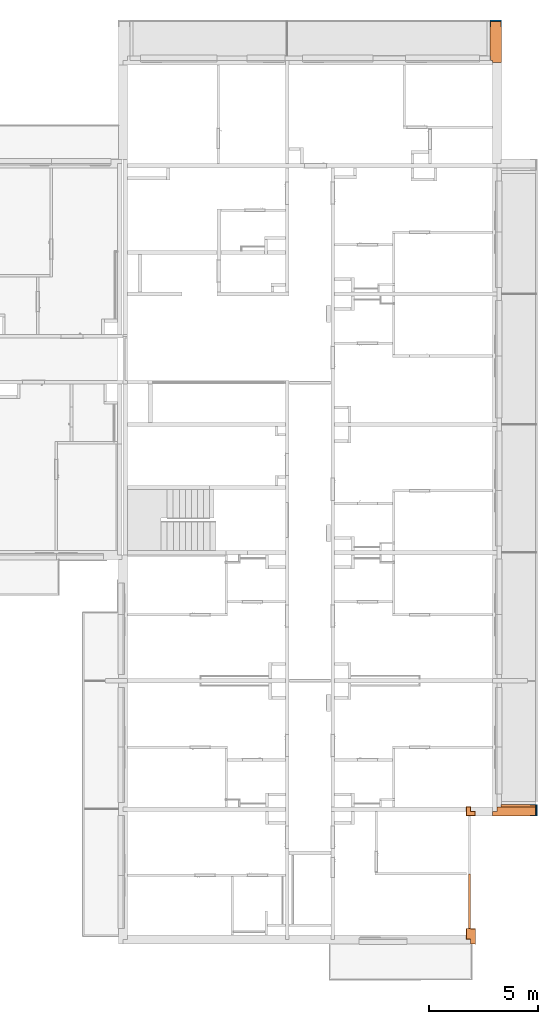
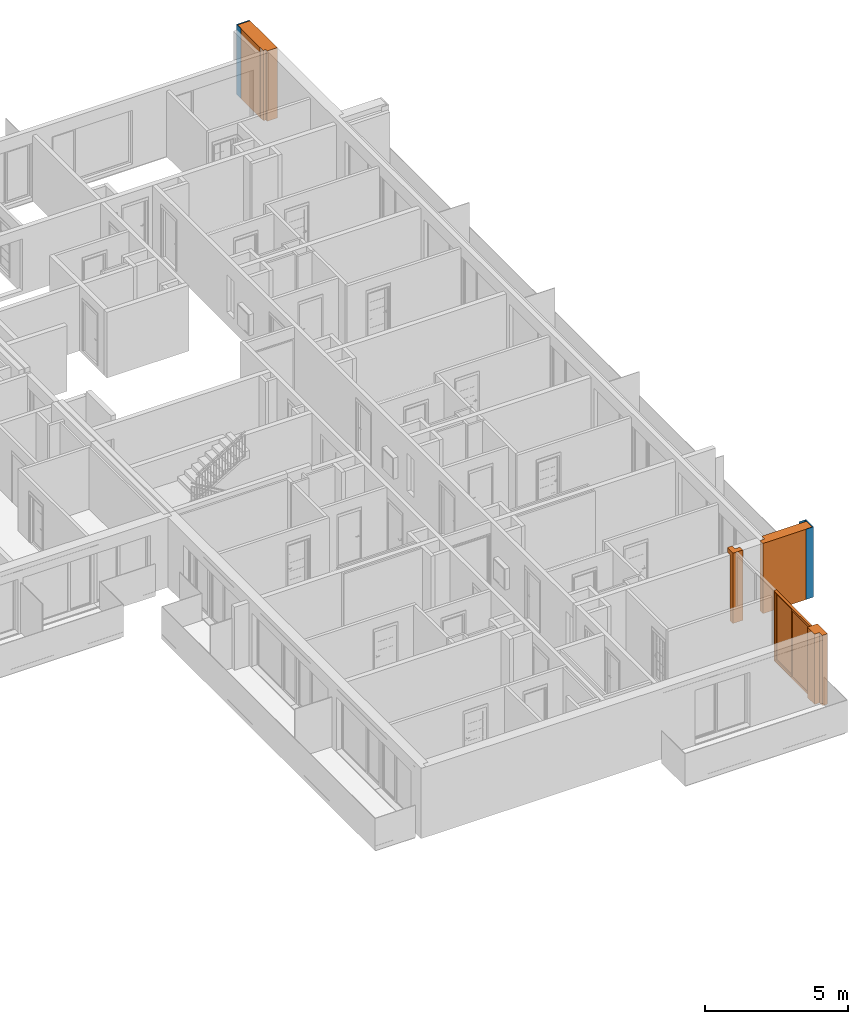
# One storey, part 51 of 66: 4 proxies, 2 walls, 4 openings.
"""IFC2X3 building model written with IfcOpenShell, lengths in millimetres."""

from ifc_helpers import new_model, entity, si_unit, converted_unit, derived_unit, money_unit, direction, frame, origin_with_axes, origin_2d_with_axis, place, context, subcontext, project, spatial, rectangle, extrude, open_shell, faceted_brep, surface_model, source, transform, mapped, material, material_list, type_object, element, fill, save


model = new_model("IFC2X3")

# Units and contexts
model_context = context("Model", 3, precision=0.01, world=origin_with_axes(), true_north=direction((0.34421633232, 0.938890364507)))
body_context = subcontext(model_context, "Body", "Model", "MODEL_VIEW")
ifc_project = project(units=[si_unit("LENGTHUNIT", "METRE", prefix="MILLI"), si_unit("AREAUNIT", "SQUARE_METRE"), si_unit("VOLUMEUNIT", "CUBIC_METRE"), converted_unit("PLANEANGLEUNIT", "DEGREE", entity("IfcPlaneAngleMeasure", 0.0174532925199), si_unit("PLANEANGLEUNIT", "RADIAN"), dimensions=[0, 0, 0, 0, 0, 0, 0]), si_unit("SOLIDANGLEUNIT", "STERADIAN"), money_unit("USD"), converted_unit("TIMEUNIT", "Year", entity("IfcTimeMeasure", 31556926.0), si_unit("TIMEUNIT", "SECOND"), dimensions=[0, 0, 1, 0, 0, 0, 0]), si_unit("MASSUNIT", "GRAM", prefix="KILO"), si_unit("THERMODYNAMICTEMPERATUREUNIT", "DEGREE_CELSIUS"), si_unit("LUMINOUSINTENSITYUNIT", "LUMEN"), si_unit("ENERGYUNIT", "JOULE", prefix="MEGA"), derived_unit("THERMALCONDUCTANCEUNIT", [(si_unit("POWERUNIT", "WATT"), 1), (si_unit("LENGTHUNIT", "METRE"), -1), (si_unit("THERMODYNAMICTEMPERATUREUNIT", "KELVIN"), -1)]), derived_unit("SPECIFICHEATCAPACITYUNIT", [(si_unit("ENERGYUNIT", "JOULE"), 1), (si_unit("MASSUNIT", "GRAM", prefix="KILO"), -1), (si_unit("THERMODYNAMICTEMPERATUREUNIT", "KELVIN"), -1)]), derived_unit("MASSDENSITYUNIT", [(si_unit("MASSUNIT", "GRAM", prefix="KILO"), 1), (si_unit("VOLUMEUNIT", "CUBIC_METRE"), -1)])], contexts=[model_context])

# Site, building, storey
site_placement = place(None, origin_with_axes())
site = spatial("IfcSite", under=ifc_project, at=site_placement, Name="USTRONIE MORSKIE", CompositionType="ELEMENT")
building_placement = place(site_placement, origin_with_axes())
building = spatial("IfcBuilding", under=site, at=building_placement, Name="Budynek", CompositionType="ELEMENT")
storey_placement = place(building_placement, frame((0.0, 0.0, 10000.0), z_axis=(0.0, 0.0, 1.0), x_axis=(1.0, 0.0, 0.0)))
storey = spatial("IfcBuildingStorey", under=building, at=storey_placement, Name="PIĘTRO 3", CompositionType="ELEMENT", Elevation=10000.0)

# Proxies, openings
ifc_material_1 = material(Name="Tynk zewnętrzny")
ifc_material_2 = material(Name="Wełna ELEW")
ifc_material_3 = material(Name="Beton konstrukcyjny B25")
ifc_material_list_1 = material_list([ifc_material_1, ifc_material_2, ifc_material_3])
building_element_proxy_type_1 = type_object("IfcBuildingElementProxyType", Name="20+20 410", PredefinedType="NOTDEFINED")
proxy_1_placement = place(storey_placement, frame((424367.920919, 715101.199036, -160.0), z_axis=(0.0, 0.0, 1.0), x_axis=(0.0, -1.0, 0.0)))
proxy_1 = element("IfcBuildingElementProxy", 1, at=proxy_1_placement, inside=storey, type_object=building_element_proxy_type_1, material=ifc_material_list_1, Name="SZ-01", context=body_context, shape_type="Brep", body=[
    faceted_brep([(300.0, 310.0, 0.0), (300.0, 310.0, 2800.0), (300.0, 310.0, 3000.0), (6210.0, 310.0, 3000.0), (6210.0, 310.0, 0.0), (300.0, 300.0, 2800.0), (300.0, 300.0, 0.0), (300.0, 300.0, 3000.0), (6210.0, 300.0, 3000.0), (6210.0, 300.0, 0.0)], [[[0, 1, 2, 3, 4]], [[5, 1, 0, 6]], [[1, 5, 7, 2]], [[2, 7, 8, 3]], [[4, 3, 8, 9]], [[6, 0, 4, 9]], [[5, 6, 9, 8, 7]]]),
    faceted_brep([(6200.0, 300.0, 0.0), (100.0, 300.0, 0.0), (100.0, 300.0, 3000.0), (6200.0, 300.0, 3000.0), (6200.0, 100.0, 0.0), (100.0, 100.0, 0.0), (100.0, 100.0, 3000.0), (6200.0, 100.0, 3000.0)], [[[0, 1, 2, 3]], [[4, 5, 1, 0]], [[2, 1, 5, 6]], [[3, 2, 6, 7]], [[4, 0, 3, 7]], [[6, 5, 4, 7]]]),
    faceted_brep([(100.0, 100.0, 0.0), (100.0, 100.0, 2800.0), (-100.0, 100.0, 2800.0), (-100.0, 100.0, 3000.0), (6000.0, 100.0, 3000.0), (6000.0, 100.0, 0.0), (100.0, -100.0, 0.0), (100.0, -100.0, 2800.0), (-100.0, -100.0, 2800.0), (-100.0, -100.0, 3000.0), (6000.0, -100.0, 3000.0), (6000.0, -100.0, 0.0)], [[[0, 1, 2, 3, 4, 5]], [[1, 0, 6, 7]], [[8, 2, 1, 7]], [[2, 8, 9, 3]], [[4, 3, 9, 10]], [[5, 4, 10, 11]], [[6, 0, 5, 11]], [[7, 6, 11, 10, 9, 8]]]),
])
opening_1_placement = place(proxy_1_placement, frame((4240.0, 0.0, 0.0), z_axis=(0.0, 0.0, 1.0), x_axis=(1.0, 0.0, 0.0)))
opening_1 = element("IfcOpeningElement", 2, at=opening_1_placement, cuts=proxy_1, Name="Wz.04", context=body_context, shape_type="SweptSolid", body=[
    extrude(rectangle(XDim=2520.0, YDim=3000.0, at=origin_2d_with_axis()), frame((0.0, 0.0, 1500.0), z_axis=(0.0, 1.0, 0.0), x_axis=(1.0, 0.0, 0.0)), (0.0, 0.0, 1.0), 720.0),
    extrude(rectangle(XDim=2520.0, YDim=3000.0, at=origin_2d_with_axis()), frame((0.0, 0.0, 1500.0), z_axis=(0.0, -1.0, 0.0), x_axis=(1.0, 0.0, 0.0)), (0.0, 0.0, 1.0), 510.0),
])
opening_2_placement = place(proxy_1_placement, frame((1640.0, 0.0, 0.0), z_axis=(0.0, 0.0, 1.0), x_axis=(1.0, 0.0, 0.0)))
element("IfcOpeningElement", 3, at=opening_2_placement, cuts=proxy_1, Name="Wz.04", context=body_context, shape_type="SweptSolid", body=[
    extrude(rectangle(XDim=2680.0, YDim=3000.0, at=origin_2d_with_axis()), frame((0.0, 0.0, 1500.0), z_axis=(0.0, -1.0, 0.0), x_axis=(-1.0, 0.0, 0.0)), (0.0, 0.0, -1.0), 720.0),
    extrude(rectangle(XDim=2680.0, YDim=3000.0, at=origin_2d_with_axis()), frame((0.0, 0.0, 1500.0), z_axis=(0.0, 1.0, 0.0), x_axis=(-1.0, 0.0, 0.0)), (0.0, 0.0, -1.0), 510.0),
])
building_element_proxy_type_2 = type_object("IfcBuildingElementProxyType", Name="Okno przesuwne, 2-skrzydłowe 23", PredefinedType="NOTDEFINED")
shared_shape_1 = source(origin_with_axes(), body_context, "Body", "SurfaceModel", [
    faceted_brep([(1210.0, -100.0, 50.0), (1210.0, -100.0, 2950.0), (1210.0, 0.0, 2950.0), (1210.0, 0.0, 50.0), (1260.0, -100.0, 50.0), (1260.0, -100.0, 2950.0), (1260.0, 0.0, 2950.0), (1260.0, 0.0, 50.0)], [[[0, 1, 2, 3]], [[0, 4, 5, 1]], [[1, 5, 6, 2]], [[3, 2, 6, 7]], [[4, 0, 3, 7]], [[5, 4, 7, 6]]]),
    faceted_brep([(-1260.0, -100.0, 50.0), (-1260.0, -100.0, 2950.0), (-1260.0, 0.0, 2950.0), (-1260.0, 0.0, 50.0), (-1210.0, -100.0, 50.0), (-1210.0, -100.0, 2950.0), (-1210.0, 0.0, 2950.0), (-1210.0, 0.0, 50.0)], [[[0, 1, 2, 3]], [[0, 4, 5, 1]], [[1, 5, 6, 2]], [[3, 2, 6, 7]], [[4, 0, 3, 7]], [[5, 4, 7, 6]]]),
    faceted_brep([(-1260.0, -100.0, 50.0), (-1210.0, -100.0, 50.0), (-1210.0, 0.0, 50.0), (-1260.0, 0.0, 50.0), (-1260.0, -100.0, 0.0), (1260.0, -100.0, 0.0), (1260.0, -100.0, 50.0), (1210.0, -100.0, 50.0), (1210.0, 0.0, 50.0), (1260.0, 0.0, 50.0), (1260.0, 0.0, 0.0), (-1260.0, 0.0, 0.0)], [[[0, 1, 2, 3]], [[0, 4, 5, 6, 7, 1]], [[1, 7, 8, 2]], [[3, 2, 8, 9, 10, 11]], [[4, 0, 3, 11]], [[5, 4, 11, 10]], [[6, 5, 10, 9]], [[7, 6, 9, 8]]]),
    faceted_brep([(-1260.0, -100.0, 3000.0), (1260.0, -100.0, 3000.0), (1260.0, 0.0, 3000.0), (-1260.0, 0.0, 3000.0), (-1260.0, -100.0, 2950.0), (-1210.0, -100.0, 2950.0), (1210.0, -100.0, 2950.0), (1260.0, -100.0, 2950.0), (1260.0, 0.0, 2950.0), (1210.0, 0.0, 2950.0), (-1210.0, 0.0, 2950.0), (-1260.0, 0.0, 2950.0)], [[[0, 1, 2, 3]], [[0, 4, 5, 6, 7, 1]], [[1, 7, 8, 2]], [[3, 2, 8, 9, 10, 11]], [[4, 0, 3, 11]], [[5, 4, 11, 10]], [[6, 5, 10, 9]], [[7, 6, 9, 8]]]),
    faceted_brep([(1160.0, -100.0, 2900.0), (1210.0, -100.0, 2900.0), (1210.0, -50.0, 2900.0), (1160.0, -50.0, 2900.0), (1160.0, -100.0, 100.0), (1210.0, -100.0, 100.0), (1210.0, -50.0, 100.0), (1160.0, -50.0, 100.0)], [[[0, 1, 2, 3]], [[0, 4, 5, 1]], [[1, 5, 6, 2]], [[3, 2, 6, 7]], [[4, 0, 3, 7]], [[5, 4, 7, 6]]]),
    faceted_brep([(25.0, -100.0, 100.0), (-25.0, -100.0, 100.0), (-25.0, -50.0, 100.0), (25.0, -50.0, 100.0), (25.0, -100.0, 2900.0), (-25.0, -100.0, 2900.0), (-25.0, -50.0, 2900.0), (25.0, -50.0, 2900.0)], [[[0, 1, 2, 3]], [[0, 4, 5, 1]], [[1, 5, 6, 2]], [[3, 2, 6, 7]], [[4, 0, 3, 7]], [[5, 4, 7, 6]]]),
    faceted_brep([(-25.0, -100.0, 50.0), (-25.0, -100.0, 100.0), (-25.0, -50.0, 100.0), (-25.0, -50.0, 50.0), (1210.0, -100.0, 50.0), (1210.0, -100.0, 100.0), (1160.0, -100.0, 100.0), (25.0, -100.0, 100.0), (25.0, -50.0, 100.0), (1160.0, -50.0, 100.0), (1210.0, -50.0, 100.0), (1210.0, -50.0, 50.0)], [[[0, 1, 2, 3]], [[0, 4, 5, 6, 7, 1]], [[1, 7, 8, 2]], [[3, 2, 8, 9, 10, 11]], [[4, 0, 3, 11]], [[5, 4, 11, 10]], [[6, 5, 10, 9]], [[7, 6, 9, 8]]]),
    faceted_brep([(1210.0, -100.0, 2950.0), (1210.0, -100.0, 2900.0), (1210.0, -50.0, 2900.0), (1210.0, -50.0, 2950.0), (-25.0, -100.0, 2950.0), (-25.0, -100.0, 2900.0), (25.0, -100.0, 2900.0), (1160.0, -100.0, 2900.0), (1160.0, -50.0, 2900.0), (25.0, -50.0, 2900.0), (-25.0, -50.0, 2900.0), (-25.0, -50.0, 2950.0)], [[[0, 1, 2, 3]], [[0, 4, 5, 6, 7, 1]], [[1, 7, 8, 2]], [[3, 2, 8, 9, 10, 11]], [[4, 0, 3, 11]], [[5, 4, 11, 10]], [[6, 5, 10, 9]], [[7, 6, 9, 8]]]),
    surface_model("IfcShellBasedSurfaceModel", [(1160.0, -85.0, 100.0), (1160.0, -85.0, 2900.0), (25.0, -85.0, 2900.0), (25.0, -85.0, 100.0)], [open_shell([[[0, 1, 2, 3]]])]),
    surface_model("IfcShellBasedSurfaceModel", [(1160.0, -65.0, 100.0), (25.0, -65.0, 100.0), (25.0, -65.0, 2900.0), (1160.0, -65.0, 2900.0)], [open_shell([[[0, 1, 2, 3]]])]),
    faceted_brep([(-25.0, -50.0, 2900.0), (25.0, -50.0, 2900.0), (25.0, 0.0, 2900.0), (-25.0, 0.0, 2900.0), (-25.0, -50.0, 100.0), (25.0, -50.0, 100.0), (25.0, 0.0, 100.0), (-25.0, 0.0, 100.0)], [[[0, 1, 2, 3]], [[0, 4, 5, 1]], [[1, 5, 6, 2]], [[3, 2, 6, 7]], [[4, 0, 3, 7]], [[5, 4, 7, 6]]]),
    faceted_brep([(-1160.0, -50.0, 100.0), (-1210.0, -50.0, 100.0), (-1210.0, 0.0, 100.0), (-1160.0, 0.0, 100.0), (-1160.0, -50.0, 2900.0), (-1210.0, -50.0, 2900.0), (-1210.0, 0.0, 2900.0), (-1160.0, 0.0, 2900.0)], [[[0, 1, 2, 3]], [[0, 4, 5, 1]], [[1, 5, 6, 2]], [[3, 2, 6, 7]], [[4, 0, 3, 7]], [[5, 4, 7, 6]]]),
    faceted_brep([(-1210.0, -50.0, 50.0), (-1210.0, -50.0, 100.0), (-1210.0, 0.0, 100.0), (-1210.0, 0.0, 50.0), (25.0, -50.0, 50.0), (25.0, -50.0, 100.0), (-25.0, -50.0, 100.0), (-1160.0, -50.0, 100.0), (-1160.0, 0.0, 100.0), (-25.0, 0.0, 100.0), (25.0, 0.0, 100.0), (25.0, 0.0, 50.0)], [[[0, 1, 2, 3]], [[0, 4, 5, 6, 7, 1]], [[1, 7, 8, 2]], [[3, 2, 8, 9, 10, 11]], [[4, 0, 3, 11]], [[5, 4, 11, 10]], [[6, 5, 10, 9]], [[7, 6, 9, 8]]]),
    faceted_brep([(25.0, -50.0, 2950.0), (25.0, -50.0, 2900.0), (25.0, 0.0, 2900.0), (25.0, 0.0, 2950.0), (-1210.0, -50.0, 2950.0), (-1210.0, -50.0, 2900.0), (-1160.0, -50.0, 2900.0), (-25.0, -50.0, 2900.0), (-25.0, 0.0, 2900.0), (-1160.0, 0.0, 2900.0), (-1210.0, 0.0, 2900.0), (-1210.0, 0.0, 2950.0)], [[[0, 1, 2, 3]], [[0, 4, 5, 6, 7, 1]], [[1, 7, 8, 2]], [[3, 2, 8, 9, 10, 11]], [[4, 0, 3, 11]], [[5, 4, 11, 10]], [[6, 5, 10, 9]], [[7, 6, 9, 8]]]),
    surface_model("IfcShellBasedSurfaceModel", [(-25.0, -35.0, 100.0), (-25.0, -35.0, 2900.0), (-1160.0, -35.0, 2900.0), (-1160.0, -35.0, 100.0)], [open_shell([[[0, 1, 2, 3]]])]),
    surface_model("IfcShellBasedSurfaceModel", [(-25.0, -15.0, 100.0), (-1160.0, -15.0, 100.0), (-1160.0, -15.0, 2900.0), (-25.0, -15.0, 2900.0)], [open_shell([[[0, 1, 2, 3]]])]),
])
proxy_2_placement = place(opening_1_placement, frame((1260.0, 0.0, 0.0), z_axis=(0.0, 0.0, 1.0), x_axis=(-1.0, 0.0, 0.0)))
proxy_2 = element("IfcBuildingElementProxy", 4, at=proxy_2_placement, inside=storey, type_object=building_element_proxy_type_2, Name="Wz.04", context=body_context, shape_type="MappedRepresentation", body=[
    mapped(shared_shape_1, transform((1260.0, 0.0, 0.0))),
])
fill(opening_1, proxy_2)

# Proxy, opening, wall
ifc_material_list_2 = material_list([ifc_material_1, ifc_material_2, ifc_material_3, ifc_material_2, ifc_material_1])
building_element_proxy_type_3 = type_object("IfcBuildingElementProxyType", Name="BALKON bok 01 520", PredefinedType="NOTDEFINED")
proxy_3_placement = place(storey_placement, frame((425567.920919, 749451.184717, -160.000002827), z_axis=(0.0, 0.0, 1.0), x_axis=(0.0, 1.0, 0.0)))
proxy_3 = element("IfcBuildingElementProxy", 5, at=proxy_3_placement, inside=storey, type_object=building_element_proxy_type_3, material=ifc_material_list_2, Name="Œciana-006", context=body_context, shape_type="Brep", body=[
    faceted_brep([(300.00017689, 210.0, 3000.00000283), (300.000168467, 200.0, 3000.00000283), (1950.01413776, 200.0, 3000.00000283), (1950.01413776, 210.0, 3000.00000283), (300.000168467, 200.0, 0.0), (300.00017689, 210.0, 1.64313007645e-09), (1950.01413776, 200.0, 0.0), (1950.01413776, 210.0, 0.0)], [[[0, 1, 2, 3]], [[4, 1, 0, 5]], [[1, 4, 6, 2]], [[2, 6, 7, 3]], [[5, 0, 3, 7]], [[4, 5, 7, 6]]]),
    faceted_brep([(100.000168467, 200.0, 3000.00000283), (100.000084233, 100.0, 3000.00000283), (1950.01413776, 100.0, 3000.00000283), (1950.01413776, 200.0, 3000.00000283), (100.000084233, 100.0, 2.68217270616e-06), (100.000168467, 200.0, 2.68292232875e-06), (1950.01413776, 100.0, 0.0), (1950.01413776, 200.0, 0.0)], [[[0, 1, 2, 3]], [[4, 1, 0, 5]], [[1, 4, 6, 2]], [[2, 6, 7, 3]], [[5, 0, 3, 7]], [[4, 5, 7, 6]]]),
    faceted_brep([(0.0, -100.0, 0.0), (0.0, 100.0, 0.0), (1950.01413776, 100.0, 0.0), (1950.01413776, -100.0, 0.0), (0.0, -100.0, 3000.00000283), (0.0, 100.0, 3000.00000283), (1950.01413776, 100.0, 3000.00000283), (1950.01413776, -100.0, 3000.00000283)], [[[0, 1, 2, 3]], [[4, 5, 1, 0]], [[1, 5, 6, 2]], [[7, 3, 2, 6]], [[4, 0, 3, 7]], [[5, 4, 7, 6]]]),
    faceted_brep([(0.0, -100.0, 0.0), (1950.01413776, -100.0, 0.0), (1950.01413776, -300.0, 0.0), (0.0, -300.0, 0.0), (0.0, -100.0, 3000.00000283), (1950.01413776, -100.0, 3000.00000283), (1950.01413776, -300.0, 3000.00000283), (0.0, -300.0, 3000.00000283)], [[[0, 1, 2, 3]], [[4, 5, 1, 0]], [[2, 1, 5, 6]], [[3, 2, 6, 7]], [[4, 0, 3, 7]], [[7, 6, 5, 4]]]),
    faceted_brep([(0.0, -300.0, 0.0), (1950.01413776, -300.0, 0.0), (1950.01413776, -310.0, 0.0), (0.0, -310.0, 0.0), (0.0, -300.0, 3000.00000283), (1950.01413776, -300.0, 3000.00000283), (1950.01413776, -310.0, 3000.00000283), (0.0, -310.0, 3000.00000283)], [[[0, 1, 2, 3]], [[4, 5, 1, 0]], [[2, 1, 5, 6]], [[3, 2, 6, 7]], [[4, 0, 3, 7]], [[7, 6, 5, 4]]]),
])
opening_3_placement = place(proxy_3_placement, frame((1950.01413776, 0.0, 0.0), z_axis=(0.0, 0.0, 1.0), x_axis=(1.0, 0.0, 0.0)))
opening_3 = element("IfcOpeningElement", 6, at=opening_3_placement, cuts=proxy_3, Name="ZS1", context=body_context, shape_type="SweptSolid", body=[
    extrude(rectangle(XDim=9.99999999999, YDim=50.0000000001, at=origin_2d_with_axis()), frame((-25.0000000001, 205.0, 0.0), z_axis=(0.0, 0.0, 1.0), x_axis=(0.0, -1.0, 0.0)), (0.0, 0.0, 1.0), 3000.00000283),
    extrude(rectangle(XDim=9.99999999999, YDim=250.0, at=origin_2d_with_axis()), frame((-175.0, 205.0, 0.0), z_axis=(0.0, 0.0, 1.0), x_axis=(0.0, -1.0, 0.0)), (0.0, 0.0, 1.0), 3000.00000283),
    extrude(rectangle(XDim=9.99999999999, YDim=50.0, at=origin_2d_with_axis()), frame((-25.0, -305.0, 0.0), z_axis=(0.0, 0.0, 1.0), x_axis=(0.0, -1.0, 0.0)), (0.0, 0.0, 1.0), 3000.00000283),
    extrude(rectangle(XDim=9.99999999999, YDim=250.0, at=origin_2d_with_axis()), frame((-175.0, -305.0, 0.0), z_axis=(0.0, 0.0, 1.0), x_axis=(0.0, -1.0, 0.0)), (0.0, 0.0, 1.0), 3000.00000283),
    extrude(rectangle(XDim=500.0, YDim=50.0000000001, at=origin_2d_with_axis()), frame((-25.0000000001, -50.0, 0.0), z_axis=(0.0, 0.0, 1.0), x_axis=(0.0, -1.0, 0.0)), (0.0, 0.0, 1.0), 3000.00000283),
])
wall_type = type_object("IfcWallType", Name="Zakończenie zamknięte 23", PredefinedType="NOTDEFINED")
shared_shape_2 = source(origin_with_axes(), body_context, "Body", "Brep", [
    faceted_brep([(0.0, 0.0, 0.0), (0.0, -50.0, 0.0), (0.0, -50.0, 3000.00000283), (0.0, 0.0, 3000.00000283), (10.0, 0.0, 0.0), (10.0, -50.0, 0.0), (10.0, -50.0, 3000.00000283), (10.0, 0.0, 3000.00000283)], [[[0, 1, 2, 3]], [[4, 5, 1, 0]], [[5, 6, 2, 1]], [[6, 7, 3, 2]], [[7, 4, 0, 3]], [[4, 7, 6, 5]]]),
    faceted_brep([(0.0, -50.0, 0.0), (0.0, -300.0, 0.0), (0.0, -300.0, 3000.00000283), (0.0, -50.0, 3000.00000283), (10.0, -50.0, 0.0), (10.0, -300.0, 0.0), (10.0, -300.0, 3000.00000283), (10.0, -50.0, 3000.00000283)], [[[0, 1, 2, 3]], [[4, 5, 1, 0]], [[5, 6, 2, 1]], [[6, 7, 3, 2]], [[7, 4, 0, 3]], [[4, 7, 6, 5]]]),
    faceted_brep([(510.0, 0.0, 0.0), (510.0, -50.0, 0.0), (510.0, -50.0, 3000.00000283), (510.0, 0.0, 3000.00000283), (520.0, 0.0, 0.0), (520.0, -50.0, 0.0), (520.0, -50.0, 3000.00000283), (520.0, 0.0, 3000.00000283)], [[[0, 1, 2, 3]], [[4, 5, 1, 0]], [[5, 6, 2, 1]], [[6, 7, 3, 2]], [[7, 4, 0, 3]], [[4, 7, 6, 5]]]),
    faceted_brep([(510.0, -50.0, 0.0), (510.0, -300.0, 0.0), (510.0, -300.0, 3000.00000283), (510.0, -50.0, 3000.00000283), (520.0, -50.0, 0.0), (520.0, -300.0, 0.0), (520.0, -300.0, 3000.00000283), (520.0, -50.0, 3000.00000283)], [[[0, 1, 2, 3]], [[4, 5, 1, 0]], [[5, 6, 2, 1]], [[6, 7, 3, 2]], [[7, 4, 0, 3]], [[4, 7, 6, 5]]]),
    faceted_brep([(10.0, 0.0, 0.0), (10.0, -50.0, 0.0), (10.0, -50.0, 3000.00000283), (10.0, 0.0, 3000.00000283), (510.0, 0.0, 0.0), (510.0, -50.0, 0.0), (510.0, -50.0, 3000.00000283), (510.0, 0.0, 3000.00000283)], [[[0, 1, 2, 3]], [[4, 5, 1, 0]], [[5, 6, 2, 1]], [[6, 7, 3, 2]], [[7, 4, 0, 3]], [[4, 7, 6, 5]]]),
])
wall_1_placement = place(opening_3_placement, frame((-150.0, 0.0, 0.0), z_axis=(0.0, 0.0, 1.0), x_axis=(1.0, 0.0, 0.0)))
wall_1 = element("IfcWall", 7, at=wall_1_placement, inside=storey, type_object=wall_type, material=ifc_material_1, Name="ZS1", context=body_context, shape_type="MappedRepresentation", body=[
    mapped(shared_shape_2, transform((150.0, 210.0, 0.0), x_axis=(0.0, -1.0, 0.0), y_axis=(1.0, 0.0, 0.0), z_axis=(0.0, 0.0, 1.0))),
])
fill(opening_3, wall_1)

proxy_4_placement = place(storey_placement, frame((425567.920919, 715101.199036, -160.0), z_axis=(0.0, 0.0, 1.0), x_axis=(1.0, 0.0, 0.0)))
proxy_4 = element("IfcBuildingElementProxy", 8, at=proxy_4_placement, inside=storey, type_object=building_element_proxy_type_3, material=ifc_material_list_2, Name="Œciana-006", context=body_context, shape_type="Brep", body=[
    faceted_brep([(1910.03040031, 200.0, 10.0000009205), (310.0, 200.0, 9.9999962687), (310.0, 210.0, 9.9999962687), (1910.03040031, 210.0, 10.0000009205), (1910.03040031, 200.0, 0.0), (1949.99981809, 200.0, 0.0), (1949.99981809, 200.0, 3000.0), (1910.03040031, 200.0, 3000.0), (1910.03040031, 200.0, 2789.99999183), (310.0, 200.0, 2789.99999183), (310.0, 210.0, 2789.99999183), (1910.03040031, 210.0, 2789.99999183), (1910.03040031, 210.0, 3000.0), (1949.99981809, 210.0, 3000.0), (1949.99981809, 210.0, 0.0), (1910.03040031, 210.0, 0.0)], [[[0, 1, 2, 3]], [[1, 0, 4, 5, 6, 7, 8, 9]], [[1, 9, 10, 2]], [[3, 2, 10, 11, 12, 13, 14, 15]], [[4, 0, 3, 15]], [[4, 15, 14, 5]], [[5, 14, 13, 6]], [[12, 7, 6, 13]], [[8, 7, 12, 11]], [[10, 9, 8, 11]]]),
    faceted_brep([(1910.03040031, 100.0, 10.0000009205), (299.999891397, 100.0, 9.99999623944), (299.999891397, 200.0, 9.99999623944), (1910.03040031, 200.0, 10.0000009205), (1910.03040031, 100.0, 0.0), (1949.99981809, 100.0, 0.0), (1949.99981809, 100.0, 3000.0), (1910.03040031, 100.0, 3000.00001816), (1910.03040031, 100.0, 2789.99999183), (309.999318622, 100.0, 2789.99999183), (309.99980277, 100.0, 2800.00001425), (300.0, 100.0, 2800.00001286), (300.0, 200.0, 2799.99999896), (309.99980277, 200.0, 2800.00001425), (309.999318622, 200.0, 2789.99999183), (1910.03040031, 200.0, 2789.99999183), (1910.03040031, 200.0, 3000.00001816), (1949.99981809, 200.0, 3000.0), (1949.99981809, 200.0, 0.0), (1910.03040031, 200.0, 0.0)], [[[0, 1, 2, 3]], [[1, 0, 4, 5, 6, 7, 8, 9, 10, 11]], [[2, 1, 11, 12]], [[2, 12, 13, 14, 15, 16, 17, 18, 19, 3]], [[3, 19, 4, 0]], [[4, 19, 18, 5]], [[5, 18, 17, 6]], [[16, 7, 6, 17]], [[7, 16, 15, 8]], [[15, 14, 9, 8]], [[14, 13, 10, 9]], [[10, 13, 12, 11]]]),
    faceted_brep([(100.0, 100.0, 0.0), (1949.99981809, 100.0, 0.0), (1949.99981809, -100.0, 0.0), (100.0, -100.0, 0.0), (100.0, 100.0, 3000.0), (1949.99981809, 100.0, 3000.0), (1949.99981809, -100.0, 3000.0), (100.0, -100.0, 3000.0)], [[[0, 1, 2, 3]], [[4, 5, 1, 0]], [[2, 1, 5, 6]], [[3, 2, 6, 7]], [[4, 0, 3, 7]], [[7, 6, 5, 4]]]),
    faceted_brep([(-100.0, -100.0, 0.0), (1949.99981809, -100.0, 0.0), (1949.99981809, -300.0, 0.0), (-100.0, -300.0, 0.0), (-100.0, -100.0, 3000.0), (1949.99981809, -100.0, 3000.0), (1949.99981809, -300.0, 3000.0), (-100.0, -300.0, 3000.0)], [[[0, 1, 2, 3]], [[4, 5, 1, 0]], [[2, 1, 5, 6]], [[3, 2, 6, 7]], [[4, 0, 3, 7]], [[7, 6, 5, 4]]]),
    faceted_brep([(-100.0, -300.0, 0.0), (1949.99981809, -300.0, 0.0), (1949.99981809, -310.0, 0.0), (-100.0, -310.0, 0.0), (-100.0, -300.0, 3000.0), (1949.99981809, -300.0, 3000.0), (1949.99981809, -310.0, 3000.0), (-100.0, -310.0, 3000.0)], [[[0, 1, 2, 3]], [[4, 5, 1, 0]], [[2, 1, 5, 6]], [[3, 2, 6, 7]], [[4, 0, 3, 7]], [[7, 6, 5, 4]]]),
])
opening_4_placement = place(proxy_4_placement, frame((1949.99981809, 0.0, 0.0), z_axis=(0.0, 0.0, 1.0), x_axis=(1.0, 0.0, 0.0)))
opening_4 = element("IfcOpeningElement", 9, at=opening_4_placement, cuts=proxy_4, Name="ZS1", context=body_context, shape_type="SweptSolid", body=[
    extrude(rectangle(XDim=9.99999999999, YDim=50.0, at=origin_2d_with_axis()), frame((-25.0, 205.0, 0.0), z_axis=(0.0, 0.0, 1.0), x_axis=(0.0, -1.0, 0.0)), (0.0, 0.0, 1.0), 3000.0),
    extrude(rectangle(XDim=9.99999999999, YDim=250.0, at=origin_2d_with_axis()), frame((-175.0, 205.0, 0.0), z_axis=(0.0, 0.0, 1.0), x_axis=(0.0, -1.0, 0.0)), (0.0, 0.0, 1.0), 3000.0),
    extrude(rectangle(XDim=9.99999999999, YDim=50.0, at=origin_2d_with_axis()), frame((-25.0, -305.0, 0.0), z_axis=(0.0, 0.0, 1.0), x_axis=(0.0, -1.0, 0.0)), (0.0, 0.0, 1.0), 3000.0),
    extrude(rectangle(XDim=9.99999999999, YDim=250.0, at=origin_2d_with_axis()), frame((-175.0, -305.0, 0.0), z_axis=(0.0, 0.0, 1.0), x_axis=(0.0, -1.0, 0.0)), (0.0, 0.0, 1.0), 3000.0),
    extrude(rectangle(XDim=500.0, YDim=50.0, at=origin_2d_with_axis()), frame((-25.0, -50.0, 0.0), z_axis=(0.0, 0.0, 1.0), x_axis=(0.0, -1.0, 0.0)), (0.0, 0.0, 1.0), 3000.0),
])
shared_shape_3 = source(origin_with_axes(), body_context, "Body", "Brep", [
    faceted_brep([(0.0, 0.0, 0.0), (0.0, -50.0, 0.0), (0.0, -50.0, 3000.0), (0.0, 0.0, 3000.0), (10.0, 0.0, 0.0), (10.0, -50.0, 0.0), (10.0, -50.0, 3000.0), (10.0, 0.0, 3000.0)], [[[0, 1, 2, 3]], [[4, 5, 1, 0]], [[5, 6, 2, 1]], [[6, 7, 3, 2]], [[7, 4, 0, 3]], [[4, 7, 6, 5]]]),
    faceted_brep([(0.0, -50.0, 0.0), (0.0, -300.0, 0.0), (0.0, -300.0, 3000.0), (0.0, -50.0, 3000.0), (10.0, -50.0, 0.0), (10.0, -300.0, 0.0), (10.0, -300.0, 3000.0), (10.0, -50.0, 3000.0)], [[[0, 1, 2, 3]], [[4, 5, 1, 0]], [[5, 6, 2, 1]], [[6, 7, 3, 2]], [[7, 4, 0, 3]], [[4, 7, 6, 5]]]),
    faceted_brep([(510.0, 0.0, 0.0), (510.0, -50.0, 0.0), (510.0, -50.0, 3000.0), (510.0, 0.0, 3000.0), (520.0, 0.0, 0.0), (520.0, -50.0, 0.0), (520.0, -50.0, 3000.0), (520.0, 0.0, 3000.0)], [[[0, 1, 2, 3]], [[4, 5, 1, 0]], [[5, 6, 2, 1]], [[6, 7, 3, 2]], [[7, 4, 0, 3]], [[4, 7, 6, 5]]]),
    faceted_brep([(510.0, -50.0, 0.0), (510.0, -300.0, 0.0), (510.0, -300.0, 3000.0), (510.0, -50.0, 3000.0), (520.0, -50.0, 0.0), (520.0, -300.0, 0.0), (520.0, -300.0, 3000.0), (520.0, -50.0, 3000.0)], [[[0, 1, 2, 3]], [[4, 5, 1, 0]], [[5, 6, 2, 1]], [[6, 7, 3, 2]], [[7, 4, 0, 3]], [[4, 7, 6, 5]]]),
    faceted_brep([(10.0, 0.0, 0.0), (10.0, -50.0, 0.0), (10.0, -50.0, 3000.0), (10.0, 0.0, 3000.0), (510.0, 0.0, 0.0), (510.0, -50.0, 0.0), (510.0, -50.0, 3000.0), (510.0, 0.0, 3000.0)], [[[0, 1, 2, 3]], [[4, 5, 1, 0]], [[5, 6, 2, 1]], [[6, 7, 3, 2]], [[7, 4, 0, 3]], [[4, 7, 6, 5]]]),
])
wall_2_placement = place(opening_4_placement, frame((-150.0, 0.0, 0.0), z_axis=(0.0, 0.0, 1.0), x_axis=(1.0, 0.0, 0.0)))
wall_2 = element("IfcWall", 10, at=wall_2_placement, inside=storey, type_object=wall_type, material=ifc_material_1, Name="ZS1", context=body_context, shape_type="MappedRepresentation", body=[
    mapped(shared_shape_3, transform((150.0, 210.0, 0.0), x_axis=(0.0, -1.0, 0.0), y_axis=(1.0, 0.0, 0.0), z_axis=(0.0, 0.0, 1.0))),
])
fill(opening_4, wall_2)

save(model, "model.ifc")
